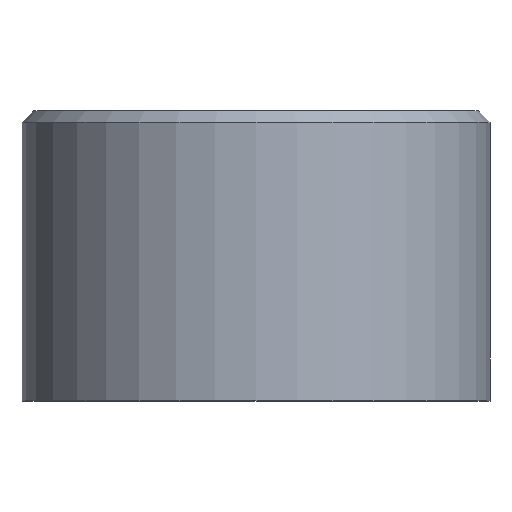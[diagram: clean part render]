
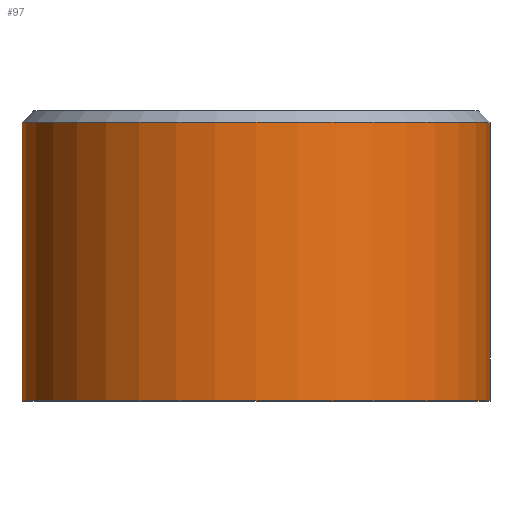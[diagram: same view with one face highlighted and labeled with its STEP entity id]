
A CAD part, top view. The second image highlights one B-rep face of the part: STEP entity #97.
In plain terms, the highlighted cylindrical face has radius 25 mm (diameter 50 mm), a full revolution.
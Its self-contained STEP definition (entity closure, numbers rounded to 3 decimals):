
#15=CYLINDRICAL_SURFACE('',#110,25.);
#23=FACE_BOUND('',#42,.T.);
#31=FACE_OUTER_BOUND('',#41,.T.);
#41=EDGE_LOOP('',(#81));
#42=EDGE_LOOP('',(#82));
#53=CIRCLE('',#106,25.);
#56=CIRCLE('',#111,25.);
#61=VERTEX_POINT('',#157);
#64=VERTEX_POINT('',#165);
#69=EDGE_CURVE('',#61,#61,#53,.T.);
#72=EDGE_CURVE('',#64,#64,#56,.T.);
#81=ORIENTED_EDGE('',*,*,#72,.T.);
#82=ORIENTED_EDGE('',*,*,#69,.F.);
#97=ADVANCED_FACE('',(#31,#23),#15,.T.);
#106=AXIS2_PLACEMENT_3D('',#158,#125,#126);
#110=AXIS2_PLACEMENT_3D('',#164,#133,#134);
#111=AXIS2_PLACEMENT_3D('',#166,#135,#136);
#125=DIRECTION('center_axis',(0.,1.,0.));
#126=DIRECTION('ref_axis',(1.,0.,0.));
#133=DIRECTION('center_axis',(0.,1.,0.));
#134=DIRECTION('ref_axis',(-1.,0.,0.));
#135=DIRECTION('center_axis',(0.,1.,0.));
#136=DIRECTION('ref_axis',(1.,0.,0.));
#157=CARTESIAN_POINT('',(-25.,29.75,0.));
#158=CARTESIAN_POINT('Origin',(0.,29.75,0.));
#164=CARTESIAN_POINT('Origin',(0.,15.5,0.));
#165=CARTESIAN_POINT('',(-25.,0.,0.));
#166=CARTESIAN_POINT('Origin',(0.,0.,0.));
